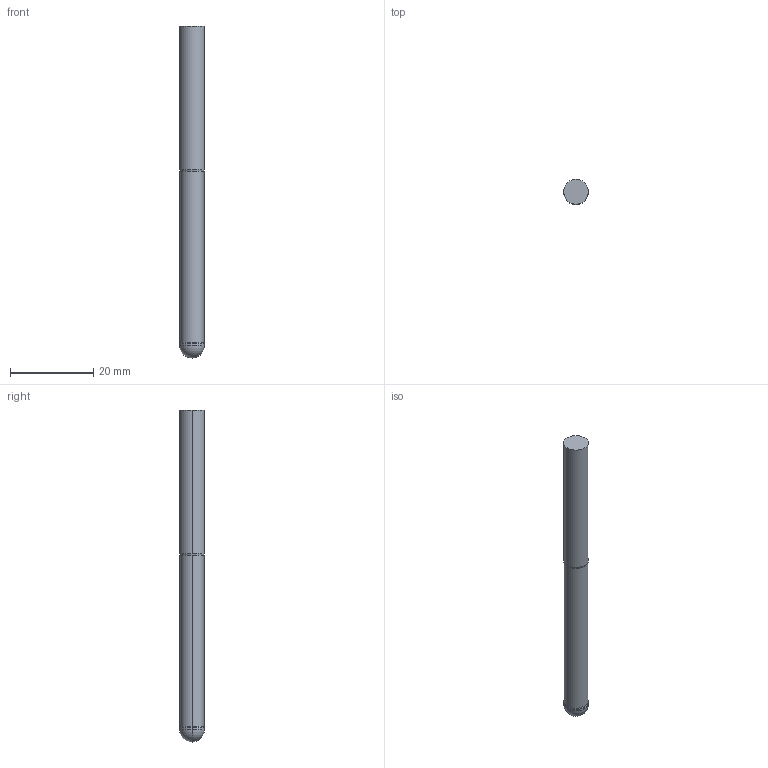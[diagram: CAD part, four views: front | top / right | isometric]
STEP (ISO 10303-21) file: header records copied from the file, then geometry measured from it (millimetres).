
FILE_DESCRIPTION(('STEP AP214'),'1');
FILE_NAME('cctmp_BE78858B-AC21-4271-87B8-8FAB9549C0FD_2020_10_07_07_19_11_0155..stp','2020-10-07T05:19:11',('Meusburger Georg GmbH & Co KG'),('CADClick - www.CADClick.com'),'Spatial InterOp 3D',' ','unknown authorization');
FILE_SCHEMA(('AUTOMOTIVE_DESIGN { 1 0 10303 214 1 1 1 1 }'));
Length unit declared in the file: millimetre
Products named in the file (1): WZF289967_6_45
Bounding box: 6 x 6 x 79.99 mm (x, y, z)
Volume: 2156.3 mm3; surface area: 1511 mm2
Topology: 1 solids, 1 shells, 14 faces, 29 edges, 16 vertices
Faces by surface type: cylinder 6, sphere 4, cone 2, plane 2
Entity records: 498 total; most frequent: DIRECTION 76, CARTESIAN_POINT 58, ORIENTED_EDGE 54, AXIS2_PLACEMENT_3D 34, EDGE_CURVE 27, CIRCLE 19, VERTEX_POINT 16, STYLED_ITEM 15
